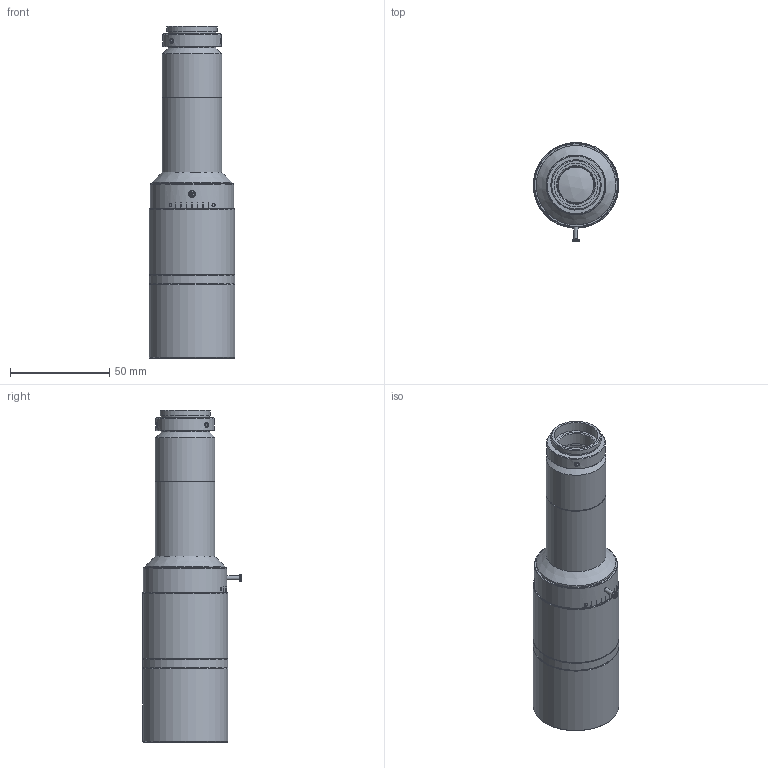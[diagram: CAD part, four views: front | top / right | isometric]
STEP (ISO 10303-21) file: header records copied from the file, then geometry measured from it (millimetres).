
FILE_DESCRIPTION(('STEP AP214'),'1');
FILE_NAME('TPC3-HMS110-VIE-FIL.stp','2024-09-17T01:52:33',(' '),(' '),'Spatial InterOp 3D',' ',' ');
FILE_SCHEMA(('AUTOMOTIVE_DESIGN { 1 0 10303 214 1 1 1 1 }'));
Length unit declared in the file: metre
Products named in the file (2): TPC3-HMS110-VIE-FIL; Component1
Assembly tree (1 placements, depth 2):
  TPC3-HMS110-VIE-FIL
    Component1
Bounding box: 42.93 x 49.77 x 166.91 mm (x, y, z)
Volume: 89041.8 mm3; surface area: 46600.9 mm2
Topology: 1 solids, 18 shells, 402 faces, 892 edges, 593 vertices
Faces by surface type: plane 142, cylinder 115, cone 91, bspline 46, sphere 6, torus 2
Full cylindrical faces by diameter (mm): 1 x4, 2 x2, 2.4 x4, 2.5 x3, 12 x1, 14.4 x1, 15.2 x1, 18 x1, 18.5 x2, 19 x1, 20 x2, 21.4 x1, 22 x3, 22.2 x1, 22.5 x1, 23.4 x1, 24 x4, 24.1 x1, 24.2 x1, 24.5 x1, 25 x2, 25.2 x1, 25.3 x1, 26.2 x1, 27 x2, 27.5 x1, 27.9 x1, 28 x1, 28.7 x1, 29.5 x1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
Entity records: 17125 total; most frequent: CARTESIAN_POINT 6319, DIRECTION 1443, ORIENTED_EDGE 1308, EDGE_LOOP 662, EDGE_CURVE 654, AXIS2_PLACEMENT_3D 651, VERTEX_POINT 518, FACE_OUTER_BOUND 495
